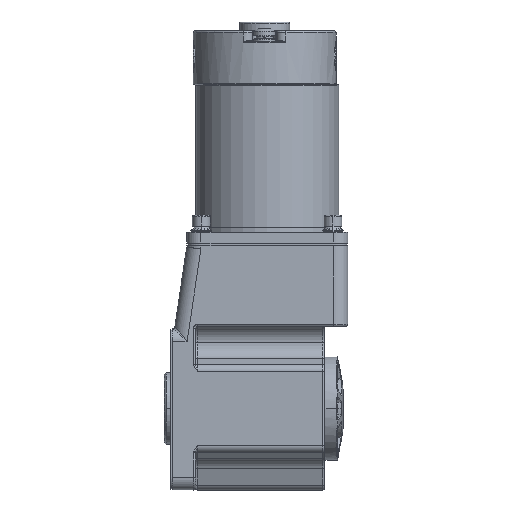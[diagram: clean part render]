
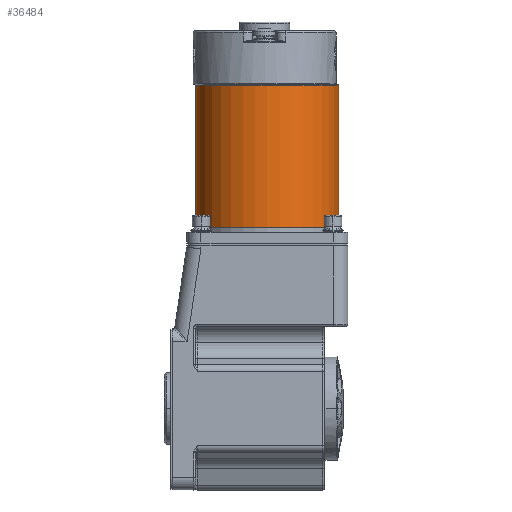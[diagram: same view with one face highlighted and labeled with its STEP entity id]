
A CAD part, front view. The second image highlights one B-rep face of the part: STEP entity #36484.
In plain terms, the highlighted cylindrical face has radius 40 mm (diameter 80 mm), a partial arc.
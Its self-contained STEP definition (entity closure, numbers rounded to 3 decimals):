
#2613 = DIRECTION ( 'NONE',  ( 0., 1., 0. ) ) ;
#2687 = CIRCLE ( 'NONE', #86885, 40. ) ;
#2898 = EDGE_CURVE ( 'NONE', #9630, #45959, #9126, .T. ) ;
#3006 = LINE ( 'NONE', #35777, #24058 ) ;
#3475 = DIRECTION ( 'NONE',  ( 0., 1., 0. ) ) ;
#3489 = DIRECTION ( 'NONE',  ( 0., 0., 1. ) ) ;
#4162 = CARTESIAN_POINT ( 'NONE',  ( 0., 0.3, -40. ) ) ;
#7897 = AXIS2_PLACEMENT_3D ( 'NONE', #65502, #30918, #38213 ) ;
#8957 = EDGE_CURVE ( 'NONE', #39725, #51952, #3006, .T. ) ;
#9126 = CIRCLE ( 'NONE', #57113, 40. ) ;
#9630 = VERTEX_POINT ( 'NONE', #24105 ) ;
#11095 = CARTESIAN_POINT ( 'NONE',  ( 0., 0.3, 40. ) ) ;
#14242 = CARTESIAN_POINT ( 'NONE',  ( 0., 79.7, 40. ) ) ;
#14380 = DIRECTION ( 'NONE',  ( 0., 0., 1. ) ) ;
#15299 = DIRECTION ( 'NONE',  ( 0., 1., 0. ) ) ;
#16549 = ORIENTED_EDGE ( 'NONE', *, *, #8957, .F. ) ;
#16682 = CARTESIAN_POINT ( 'NONE',  ( 0., 0.3, 0. ) ) ;
#16765 = DIRECTION ( 'NONE',  ( 0., -1., 0. ) ) ;
#20685 = AXIS2_PLACEMENT_3D ( 'NONE', #16682, #2613, #3489 ) ;
#24020 = ORIENTED_EDGE ( 'NONE', *, *, #33022, .T. ) ;
#24058 = VECTOR ( 'NONE', #15299, 1000. ) ;
#24105 = CARTESIAN_POINT ( 'NONE',  ( -40., 0.3, 0. ) ) ;
#26018 = ORIENTED_EDGE ( 'NONE', *, *, #2898, .T. ) ;
#29431 = CIRCLE ( 'NONE', #20685, 40. ) ;
#30024 = EDGE_CURVE ( 'NONE', #45959, #76150, #65769, .T. ) ;
#30918 = DIRECTION ( 'NONE',  ( 0., 1., 0. ) ) ;
#33022 = EDGE_CURVE ( 'NONE', #39725, #9630, #29431, .T. ) ;
#35726 = DIRECTION ( 'NONE',  ( 0., 1., 0. ) ) ;
#35777 = CARTESIAN_POINT ( 'NONE',  ( 0., 0., -40. ) ) ;
#36484 = ADVANCED_FACE ( 'NONE', ( #76929 ), #86374, .T. ) ;
#36583 = EDGE_LOOP ( 'NONE', ( #16549, #24020, #26018, #87392, #36696 ) ) ;
#36696 = ORIENTED_EDGE ( 'NONE', *, *, #70096, .T. ) ;
#38213 = DIRECTION ( 'NONE',  ( 0., 0., 1. ) ) ;
#39725 = VERTEX_POINT ( 'NONE', #4162 ) ;
#45045 = VECTOR ( 'NONE', #3475, 1000. ) ;
#45959 = VERTEX_POINT ( 'NONE', #11095 ) ;
#51952 = VERTEX_POINT ( 'NONE', #60092 ) ;
#57113 = AXIS2_PLACEMENT_3D ( 'NONE', #82595, #35726, #14380 ) ;
#60092 = CARTESIAN_POINT ( 'NONE',  ( 0., 79.7, -40. ) ) ;
#65502 = CARTESIAN_POINT ( 'NONE',  ( 0., 0., 0. ) ) ;
#65769 = LINE ( 'NONE', #78958, #45045 ) ;
#70096 = EDGE_CURVE ( 'NONE', #76150, #51952, #2687, .T. ) ;
#73106 = DIRECTION ( 'NONE',  ( 0., 0., 1. ) ) ;
#76150 = VERTEX_POINT ( 'NONE', #14242 ) ;
#76929 = FACE_OUTER_BOUND ( 'NONE', #36583, .T. ) ;
#78958 = CARTESIAN_POINT ( 'NONE',  ( 0., 0., 40. ) ) ;
#79049 = CARTESIAN_POINT ( 'NONE',  ( 0., 79.7, 0. ) ) ;
#82595 = CARTESIAN_POINT ( 'NONE',  ( 0., 0.3, 0. ) ) ;
#86374 = CYLINDRICAL_SURFACE ( 'NONE', #7897, 40. ) ;
#86885 = AXIS2_PLACEMENT_3D ( 'NONE', #79049, #16765, #73106 ) ;
#87392 = ORIENTED_EDGE ( 'NONE', *, *, #30024, .T. ) ;
